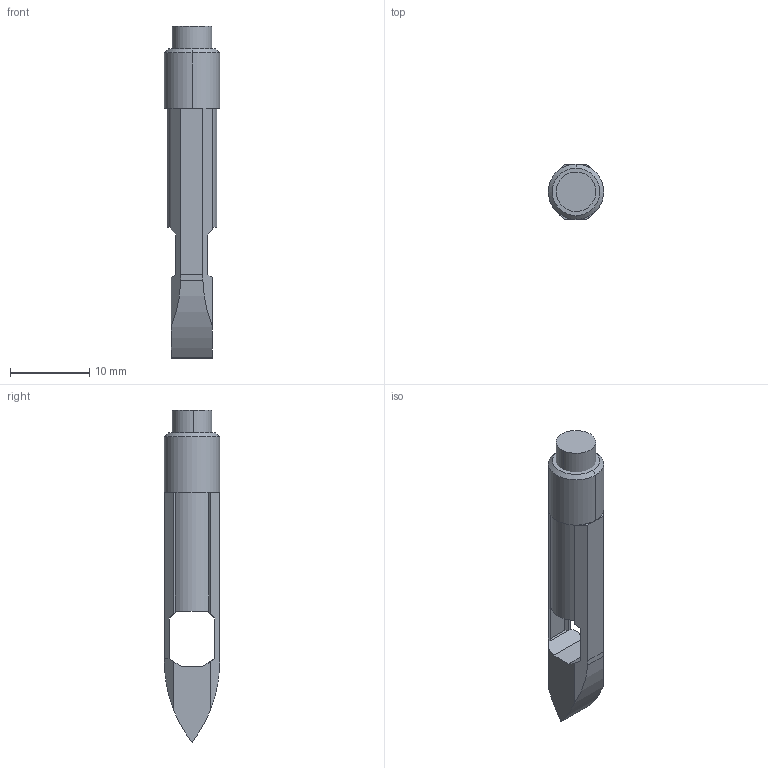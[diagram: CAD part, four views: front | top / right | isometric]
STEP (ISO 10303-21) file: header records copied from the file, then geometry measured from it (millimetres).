
FILE_DESCRIPTION (( 'STEP AP203' ), '1' );
FILE_NAME ('258 Series.STEP', '2016-08-04T09:23:10', ( '' ), ( '' ), 'SwSTEP 2.0', 'SolidWorks 2016', '' );
FILE_SCHEMA (( 'CONFIG_CONTROL_DESIGN' ));
Length unit declared in the file: millimetre
Products named in the file (5): COM3583_208 flanged led; 1SBB; LED_501_1.5mmLEGS; 258 Series; Part5^258series
Assembly tree (4 placements, depth 2):
  258 Series
    COM3583_208 flanged led
    1SBB
    LED_501_1.5mmLEGS
    Part5^258series
Bounding box: 7 x 7 x 41.94 mm (x, y, z)
Volume: 865.3 mm3; surface area: 1826.8 mm2
Topology: 4 solids, 4 shells, 89 faces, 206 edges, 130 vertices
Faces by surface type: plane 66, cylinder 21, cone 2
Entity records: 3013 total; most frequent: CARTESIAN_POINT 444, DIRECTION 436, ORIENTED_EDGE 412, EDGE_CURVE 206, VECTOR 160, LINE 160, AXIS2_PLACEMENT_3D 138, VERTEX_POINT 130
